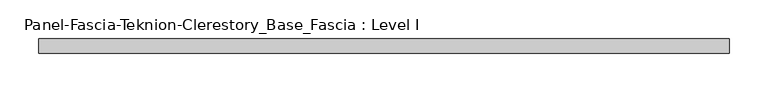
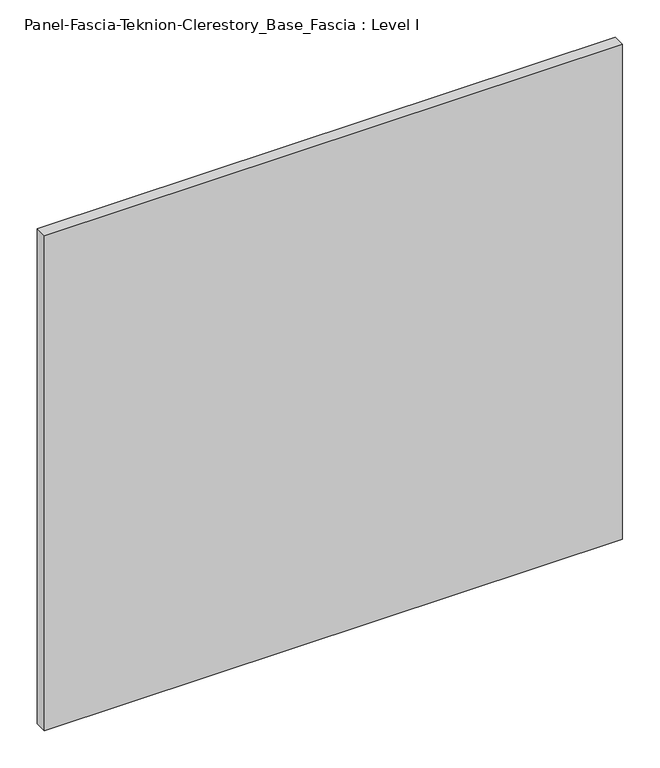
"""IFC4 building model written with IfcOpenShell, lengths in millimetres: proxy geometry, Panel-Fascia-Teknion-Clerestory_Base_Fascia : Level I."""

from ifc_helpers import new_model, si_unit, frame, origin, place, context, project, spatial, polyline, outline, extrude, source, transform, mapped, element, save


def panel_fascia_teknion_clerestory_base_fascia_level_i_988903cc(model_context):
    return source(origin(), model_context, "Body", "SweptSolid", [
        extrude(outline(polyline([(447.6198344, -9.525), (-447.6198344, -9.525), (-447.6198344, 9.525), (447.6198344, 9.525), (447.6198344, -9.525)])), frame((0.0, 0.0, 3.175), z_axis=(0.0, 0.0, 1.0), x_axis=(1.0, 0.0, 0.0)), (0.0, 0.0, 1.0), 810.768),
    ])


if __name__ == "__main__":
    model = new_model("IFC4")
    model_context = context("Model", 3, world=origin())
    ifc_project = project(units=[si_unit("LENGTHUNIT", "METRE", prefix="MILLI")], contexts=[model_context])
    site = spatial("IfcSite", under=ifc_project)
    building = spatial("IfcBuilding", under=site)
    placement = place(None, origin())
    panel_fascia_teknion_clerestory_base_fascia_level_i_shape = panel_fascia_teknion_clerestory_base_fascia_level_i_988903cc(model_context)
    element("IfcBuildingElementProxy", 1, Name="Panel-Fascia-Teknion-Clerestory_Base_Fascia : Level I", ObjectType="Panel-Fascia-Teknion-Clerestory_Base_Fascia : Level I", at=placement, inside=building, context=model_context, shape_type="MappedRepresentation", body=[
        mapped(panel_fascia_teknion_clerestory_base_fascia_level_i_shape, transform((0.0, 0.0, 0.0), x_axis=(1.0, 0.0, 0.0), y_axis=(0.0, 1.0, 0.0), z_axis=(0.0, 0.0, 1.0))),
    ])
    save(model, "model.ifc")
